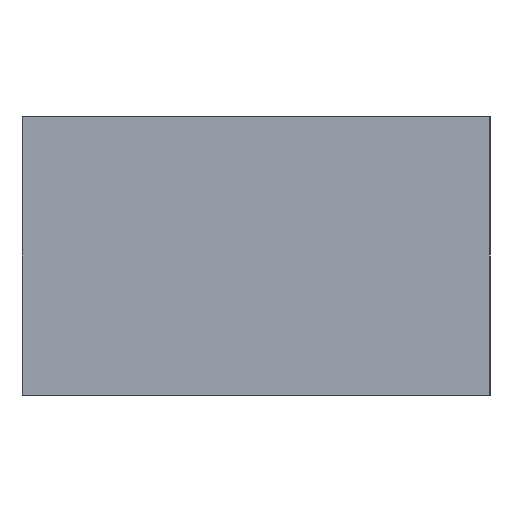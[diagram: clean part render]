
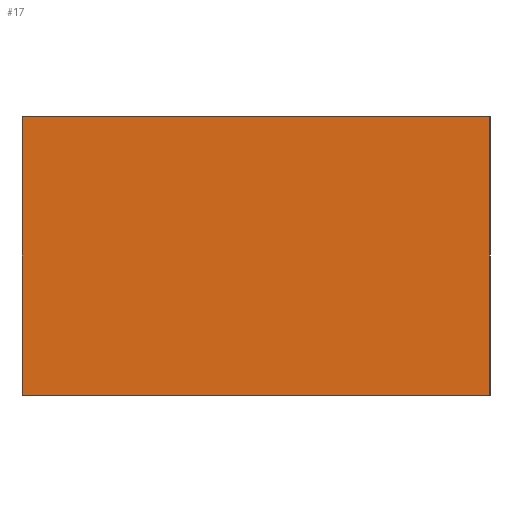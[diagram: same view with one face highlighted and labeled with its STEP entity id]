
A CAD part, left-side view. The second image highlights one B-rep face of the part: STEP entity #17.
In plain terms, the highlighted planar face has unit normal (-1, 0, 0).
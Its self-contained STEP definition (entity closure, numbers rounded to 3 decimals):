
#17 = ADVANCED_FACE('',(#18),#32,.F.);
#18 = FACE_BOUND('',#19,.F.);
#19 = EDGE_LOOP('',(#20,#55,#83,#111));
#20 = ORIENTED_EDGE('',*,*,#21,.F.);
#21 = EDGE_CURVE('',#22,#24,#26,.T.);
#22 = VERTEX_POINT('',#23);
#23 = CARTESIAN_POINT('',(-27.5,-17.15,-10.2));
#24 = VERTEX_POINT('',#25);
#25 = CARTESIAN_POINT('',(-27.5,-17.15,10.2));
#26 = SURFACE_CURVE('',#27,(#31,#43),.PCURVE_S1.);
#27 = LINE('',#28,#29);
#28 = CARTESIAN_POINT('',(-27.5,-17.15,-10.2));
#29 = VECTOR('',#30,1.);
#30 = DIRECTION('',(0.,0.,1.));
#31 = PCURVE('',#32,#37);
#32 = PLANE('',#33);
#33 = AXIS2_PLACEMENT_3D('',#34,#35,#36);
#34 = CARTESIAN_POINT('',(-27.5,-17.15,-10.2));
#35 = DIRECTION('',(1.,0.,0.));
#36 = DIRECTION('',(0.,0.,1.));
#37 = DEFINITIONAL_REPRESENTATION('',(#38),#42);
#38 = LINE('',#39,#40);
#39 = CARTESIAN_POINT('',(0.,0.));
#40 = VECTOR('',#41,1.);
#41 = DIRECTION('',(1.,0.));
#42 = ( GEOMETRIC_REPRESENTATION_CONTEXT(2) 
PARAMETRIC_REPRESENTATION_CONTEXT() REPRESENTATION_CONTEXT('2D SPACE',''
  ) );
#43 = PCURVE('',#44,#49);
#44 = PLANE('',#45);
#45 = AXIS2_PLACEMENT_3D('',#46,#47,#48);
#46 = CARTESIAN_POINT('',(-27.5,-17.15,-10.2));
#47 = DIRECTION('',(0.,1.,0.));
#48 = DIRECTION('',(0.,0.,1.));
#49 = DEFINITIONAL_REPRESENTATION('',(#50),#54);
#50 = LINE('',#51,#52);
#51 = CARTESIAN_POINT('',(0.,0.));
#52 = VECTOR('',#53,1.);
#53 = DIRECTION('',(1.,0.));
#54 = ( GEOMETRIC_REPRESENTATION_CONTEXT(2) 
PARAMETRIC_REPRESENTATION_CONTEXT() REPRESENTATION_CONTEXT('2D SPACE',''
  ) );
#55 = ORIENTED_EDGE('',*,*,#56,.T.);
#56 = EDGE_CURVE('',#22,#57,#59,.T.);
#57 = VERTEX_POINT('',#58);
#58 = CARTESIAN_POINT('',(-27.5,17.15,-10.2));
#59 = SURFACE_CURVE('',#60,(#64,#71),.PCURVE_S1.);
#60 = LINE('',#61,#62);
#61 = CARTESIAN_POINT('',(-27.5,-17.15,-10.2));
#62 = VECTOR('',#63,1.);
#63 = DIRECTION('',(0.,1.,0.));
#64 = PCURVE('',#32,#65);
#65 = DEFINITIONAL_REPRESENTATION('',(#66),#70);
#66 = LINE('',#67,#68);
#67 = CARTESIAN_POINT('',(0.,0.));
#68 = VECTOR('',#69,1.);
#69 = DIRECTION('',(0.,-1.));
#70 = ( GEOMETRIC_REPRESENTATION_CONTEXT(2) 
PARAMETRIC_REPRESENTATION_CONTEXT() REPRESENTATION_CONTEXT('2D SPACE',''
  ) );
#71 = PCURVE('',#72,#77);
#72 = PLANE('',#73);
#73 = AXIS2_PLACEMENT_3D('',#74,#75,#76);
#74 = CARTESIAN_POINT('',(-27.5,-17.15,-10.2));
#75 = DIRECTION('',(0.,0.,1.));
#76 = DIRECTION('',(1.,0.,0.));
#77 = DEFINITIONAL_REPRESENTATION('',(#78),#82);
#78 = LINE('',#79,#80);
#79 = CARTESIAN_POINT('',(0.,0.));
#80 = VECTOR('',#81,1.);
#81 = DIRECTION('',(0.,1.));
#82 = ( GEOMETRIC_REPRESENTATION_CONTEXT(2) 
PARAMETRIC_REPRESENTATION_CONTEXT() REPRESENTATION_CONTEXT('2D SPACE',''
  ) );
#83 = ORIENTED_EDGE('',*,*,#84,.T.);
#84 = EDGE_CURVE('',#57,#85,#87,.T.);
#85 = VERTEX_POINT('',#86);
#86 = CARTESIAN_POINT('',(-27.5,17.15,10.2));
#87 = SURFACE_CURVE('',#88,(#92,#99),.PCURVE_S1.);
#88 = LINE('',#89,#90);
#89 = CARTESIAN_POINT('',(-27.5,17.15,-10.2));
#90 = VECTOR('',#91,1.);
#91 = DIRECTION('',(0.,0.,1.));
#92 = PCURVE('',#32,#93);
#93 = DEFINITIONAL_REPRESENTATION('',(#94),#98);
#94 = LINE('',#95,#96);
#95 = CARTESIAN_POINT('',(0.,-34.3));
#96 = VECTOR('',#97,1.);
#97 = DIRECTION('',(1.,0.));
#98 = ( GEOMETRIC_REPRESENTATION_CONTEXT(2) 
PARAMETRIC_REPRESENTATION_CONTEXT() REPRESENTATION_CONTEXT('2D SPACE',''
  ) );
#99 = PCURVE('',#100,#105);
#100 = PLANE('',#101);
#101 = AXIS2_PLACEMENT_3D('',#102,#103,#104);
#102 = CARTESIAN_POINT('',(-27.5,17.15,-10.2));
#103 = DIRECTION('',(0.,1.,0.));
#104 = DIRECTION('',(0.,0.,1.));
#105 = DEFINITIONAL_REPRESENTATION('',(#106),#110);
#106 = LINE('',#107,#108);
#107 = CARTESIAN_POINT('',(0.,0.));
#108 = VECTOR('',#109,1.);
#109 = DIRECTION('',(1.,0.));
#110 = ( GEOMETRIC_REPRESENTATION_CONTEXT(2) 
PARAMETRIC_REPRESENTATION_CONTEXT() REPRESENTATION_CONTEXT('2D SPACE',''
  ) );
#111 = ORIENTED_EDGE('',*,*,#112,.F.);
#112 = EDGE_CURVE('',#24,#85,#113,.T.);
#113 = SURFACE_CURVE('',#114,(#118,#125),.PCURVE_S1.);
#114 = LINE('',#115,#116);
#115 = CARTESIAN_POINT('',(-27.5,-17.15,10.2));
#116 = VECTOR('',#117,1.);
#117 = DIRECTION('',(0.,1.,0.));
#118 = PCURVE('',#32,#119);
#119 = DEFINITIONAL_REPRESENTATION('',(#120),#124);
#120 = LINE('',#121,#122);
#121 = CARTESIAN_POINT('',(20.4,0.));
#122 = VECTOR('',#123,1.);
#123 = DIRECTION('',(0.,-1.));
#124 = ( GEOMETRIC_REPRESENTATION_CONTEXT(2) 
PARAMETRIC_REPRESENTATION_CONTEXT() REPRESENTATION_CONTEXT('2D SPACE',''
  ) );
#125 = PCURVE('',#126,#131);
#126 = PLANE('',#127);
#127 = AXIS2_PLACEMENT_3D('',#128,#129,#130);
#128 = CARTESIAN_POINT('',(-27.5,-17.15,10.2));
#129 = DIRECTION('',(0.,0.,1.));
#130 = DIRECTION('',(1.,0.,0.));
#131 = DEFINITIONAL_REPRESENTATION('',(#132),#136);
#132 = LINE('',#133,#134);
#133 = CARTESIAN_POINT('',(0.,0.));
#134 = VECTOR('',#135,1.);
#135 = DIRECTION('',(0.,1.));
#136 = ( GEOMETRIC_REPRESENTATION_CONTEXT(2) 
PARAMETRIC_REPRESENTATION_CONTEXT() REPRESENTATION_CONTEXT('2D SPACE',''
  ) );
